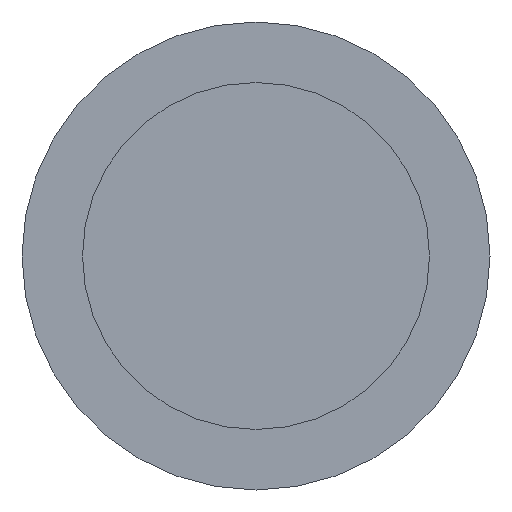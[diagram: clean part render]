
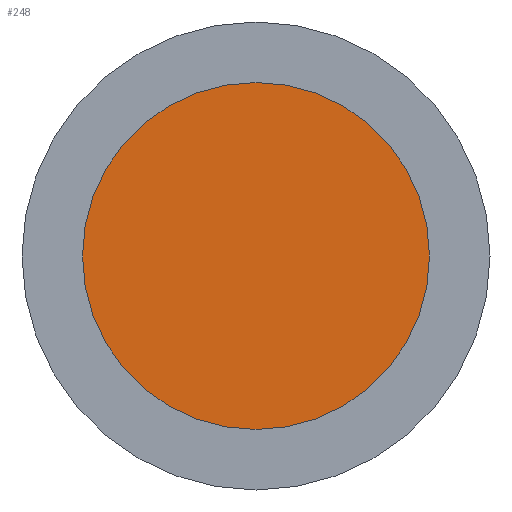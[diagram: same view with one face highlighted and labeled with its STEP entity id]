
A CAD part, front view. The second image highlights one B-rep face of the part: STEP entity #248.
In plain terms, the highlighted planar face has unit normal (0, -1, 0).
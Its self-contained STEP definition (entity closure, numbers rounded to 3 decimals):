
#2 = EDGE_CURVE ( 'NONE', #43, #43, #45, .T. ) ;
#43 = VERTEX_POINT ( 'NONE', #181 ) ;
#45 = CIRCLE ( 'NONE', #335, 10.75 ) ;
#62 = EDGE_LOOP ( 'NONE', ( #115 ) ) ;
#63 = PLANE ( 'NONE',  #236 ) ;
#115 = ORIENTED_EDGE ( 'NONE', *, *, #2, .T. ) ;
#172 = DIRECTION ( 'NONE',  ( 0., 0., -1. ) ) ;
#181 = CARTESIAN_POINT ( 'NONE',  ( 0., -16., -10.75 ) ) ;
#192 = CARTESIAN_POINT ( 'NONE',  ( 0., -16., 0. ) ) ;
#224 = CARTESIAN_POINT ( 'NONE',  ( 0., -16., 0. ) ) ;
#227 = DIRECTION ( 'NONE',  ( 0., -1., 0. ) ) ;
#236 = AXIS2_PLACEMENT_3D ( 'NONE', #192, #331, #172 ) ;
#248 = ADVANCED_FACE ( 'NONE', ( #274 ), #63, .T. ) ;
#274 = FACE_OUTER_BOUND ( 'NONE', #62, .T. ) ;
#331 = DIRECTION ( 'NONE',  ( 0., -1., 0. ) ) ;
#335 = AXIS2_PLACEMENT_3D ( 'NONE', #224, #227, #339 ) ;
#339 = DIRECTION ( 'NONE',  ( 0., 0., -1. ) ) ;
